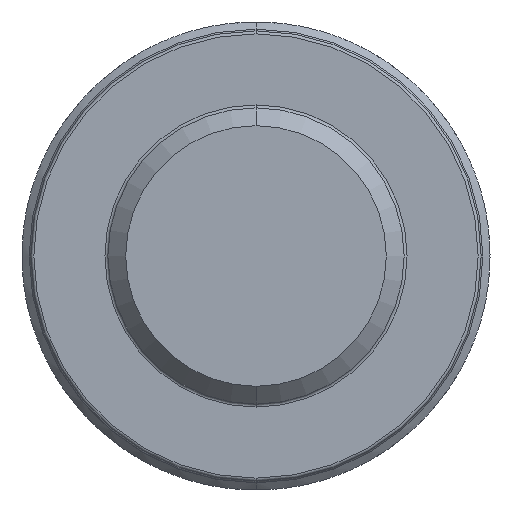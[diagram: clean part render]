
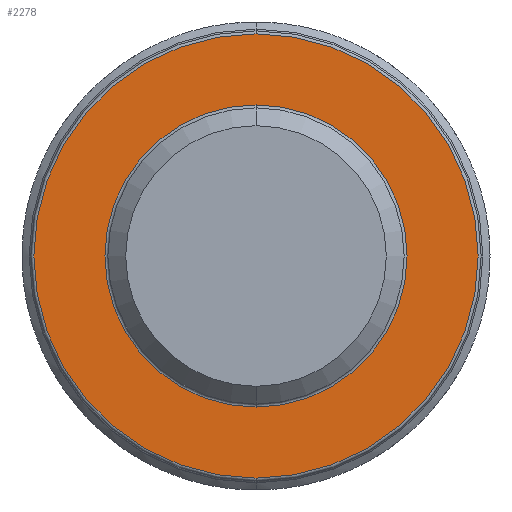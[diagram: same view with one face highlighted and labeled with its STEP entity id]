
A CAD part, front view. The second image highlights one B-rep face of the part: STEP entity #2278.
In plain terms, the highlighted planar face has unit normal (0, -1, 0).
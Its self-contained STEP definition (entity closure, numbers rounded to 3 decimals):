
#114 = CARTESIAN_POINT ( 'NONE',  ( 0., -10., 5.1 ) ) ;
#181 = CARTESIAN_POINT ( 'NONE',  ( 0., -10., -5.1 ) ) ;
#285 = AXIS2_PLACEMENT_3D ( 'NONE', #7106, #3260, #3944 ) ;
#362 = DIRECTION ( 'NONE',  ( 0., -1., 0. ) ) ;
#420 = EDGE_CURVE ( 'NONE', #4188, #542, #465, .T. ) ;
#465 = CIRCLE ( 'NONE', #5879, 7.5 ) ;
#542 = VERTEX_POINT ( 'NONE', #4844 ) ;
#834 = ORIENTED_EDGE ( 'NONE', *, *, #3690, .T. ) ;
#887 = CIRCLE ( 'NONE', #2636, 5.1 ) ;
#1253 = DIRECTION ( 'NONE',  ( 0., -1., 0. ) ) ;
#1275 = CARTESIAN_POINT ( 'NONE',  ( 0., -10., 0. ) ) ;
#1809 = DIRECTION ( 'NONE',  ( 0., 0., -1. ) ) ;
#1929 = FACE_OUTER_BOUND ( 'NONE', #7235, .T. ) ;
#2004 = DIRECTION ( 'NONE',  ( 0., 0., -1. ) ) ;
#2278 = ADVANCED_FACE ( 'NONE', ( #6265, #1929 ), #7055, .T. ) ;
#2390 = CARTESIAN_POINT ( 'NONE',  ( 0., -10., 0. ) ) ;
#2636 = AXIS2_PLACEMENT_3D ( 'NONE', #1275, #7749, #3951 ) ;
#2847 = CIRCLE ( 'NONE', #285, 5.1 ) ;
#3007 = EDGE_CURVE ( 'NONE', #5687, #7898, #887, .T. ) ;
#3260 = DIRECTION ( 'NONE',  ( 0., 1., 0. ) ) ;
#3358 = CARTESIAN_POINT ( 'NONE',  ( 0., -10., -7.5 ) ) ;
#3619 = AXIS2_PLACEMENT_3D ( 'NONE', #7602, #1253, #1809 ) ;
#3690 = EDGE_CURVE ( 'NONE', #7898, #5687, #2847, .T. ) ;
#3944 = DIRECTION ( 'NONE',  ( 0., 0., -1. ) ) ;
#3951 = DIRECTION ( 'NONE',  ( 0., 0., -1. ) ) ;
#4188 = VERTEX_POINT ( 'NONE', #3358 ) ;
#4685 = DIRECTION ( 'NONE',  ( 0., -1., 0. ) ) ;
#4771 = CARTESIAN_POINT ( 'NONE',  ( 0., -10., 0. ) ) ;
#4844 = CARTESIAN_POINT ( 'NONE',  ( 0., -10., 7.5 ) ) ;
#5203 = EDGE_CURVE ( 'NONE', #542, #4188, #7041, .T. ) ;
#5687 = VERTEX_POINT ( 'NONE', #181 ) ;
#5879 = AXIS2_PLACEMENT_3D ( 'NONE', #2390, #362, #6884 ) ;
#5970 = AXIS2_PLACEMENT_3D ( 'NONE', #4771, #4685, #2004 ) ;
#6265 = FACE_BOUND ( 'NONE', #6758, .T. ) ;
#6390 = ORIENTED_EDGE ( 'NONE', *, *, #420, .T. ) ;
#6456 = ORIENTED_EDGE ( 'NONE', *, *, #3007, .T. ) ;
#6758 = EDGE_LOOP ( 'NONE', ( #6456, #834 ) ) ;
#6884 = DIRECTION ( 'NONE',  ( 0., 0., -1. ) ) ;
#7041 = CIRCLE ( 'NONE', #5970, 7.5 ) ;
#7055 = PLANE ( 'NONE',  #3619 ) ;
#7106 = CARTESIAN_POINT ( 'NONE',  ( 0., -10., 0. ) ) ;
#7235 = EDGE_LOOP ( 'NONE', ( #6390, #8096 ) ) ;
#7602 = CARTESIAN_POINT ( 'NONE',  ( 5., -10., 0. ) ) ;
#7749 = DIRECTION ( 'NONE',  ( 0., 1., 0. ) ) ;
#7898 = VERTEX_POINT ( 'NONE', #114 ) ;
#8096 = ORIENTED_EDGE ( 'NONE', *, *, #5203, .T. ) ;
